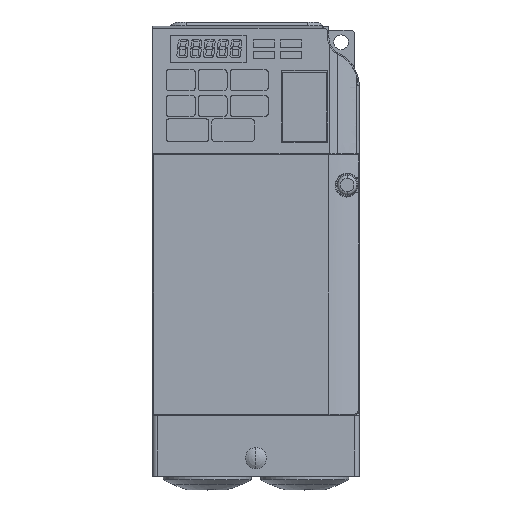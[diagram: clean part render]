
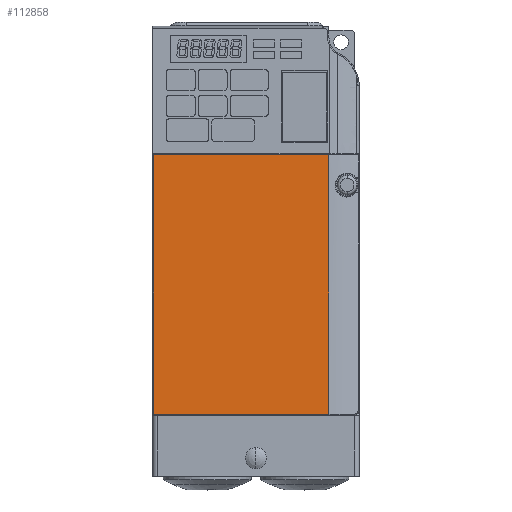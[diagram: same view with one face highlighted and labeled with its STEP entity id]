
A CAD part, top view. The second image highlights one B-rep face of the part: STEP entity #112858.
In plain terms, the highlighted planar face has unit normal (0, 0, 1).
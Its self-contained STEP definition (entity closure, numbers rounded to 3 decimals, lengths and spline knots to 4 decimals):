
#111750=DIRECTION('',(1.,0.,0.));
#111751=VECTOR('',#111750,2.267);
#111752=CARTESIAN_POINT('',(0.0952,-0.7315,
5.5118));
#111753=LINE('',#111752,#111751);
#111966=DIRECTION('',(0.,1.,0.));
#111967=VECTOR('',#111966,3.3614);
#111968=CARTESIAN_POINT('',(2.3622,-0.7315,
5.5118));
#111969=LINE('',#111968,#111967);
#112038=DIRECTION('',(0.,1.,0.));
#112039=VECTOR('',#112038,3.3614);
#112040=CARTESIAN_POINT('',(0.0952,-0.7315,
5.5118));
#112041=LINE('',#112040,#112039);
#112047=DIRECTION('',(-1.,0.,0.));
#112048=VECTOR('',#112047,2.267);
#112049=CARTESIAN_POINT('',(2.3622,2.6299,
5.5118));
#112050=LINE('',#112049,#112048);
#112393=CARTESIAN_POINT('',(0.0952,-0.7315,
5.5118));
#112394=VERTEX_POINT('',#112393);
#112395=CARTESIAN_POINT('',(2.3622,-0.7315,
5.5118));
#112396=VERTEX_POINT('',#112395);
#112418=CARTESIAN_POINT('',(0.0952,2.6299,
5.5118));
#112419=VERTEX_POINT('',#112418);
#112466=CARTESIAN_POINT('',(2.3622,2.6299,
5.5118));
#112467=VERTEX_POINT('',#112466);
#112846=CARTESIAN_POINT('',(0.0787,-0.748,
5.5118));
#112847=DIRECTION('',(0.,0.,1.));
#112848=DIRECTION('',(1.,0.,0.));
#112849=AXIS2_PLACEMENT_3D('',#112846,#112847,#112848);
#112850=PLANE('',#112849);
#112851=ORIENTED_EDGE('',*,*,#112831,.F.);
#112852=ORIENTED_EDGE('',*,*,#112574,.F.);
#112853=ORIENTED_EDGE('',*,*,#112625,.T.);
#112855=ORIENTED_EDGE('',*,*,#112854,.F.);
#112856=EDGE_LOOP('',(#112851,#112852,#112853,#112855));
#112857=FACE_OUTER_BOUND('',#112856,.F.);
#112858=ADVANCED_FACE('',(#112857),#112850,.T.);
#112574=EDGE_CURVE('',#112394,#112396,#111753,.T.);
#112625=EDGE_CURVE('',#112394,#112419,#112041,.T.);
#112831=EDGE_CURVE('',#112396,#112467,#111969,.T.);
#112854=EDGE_CURVE('',#112467,#112419,#112050,.T.);
